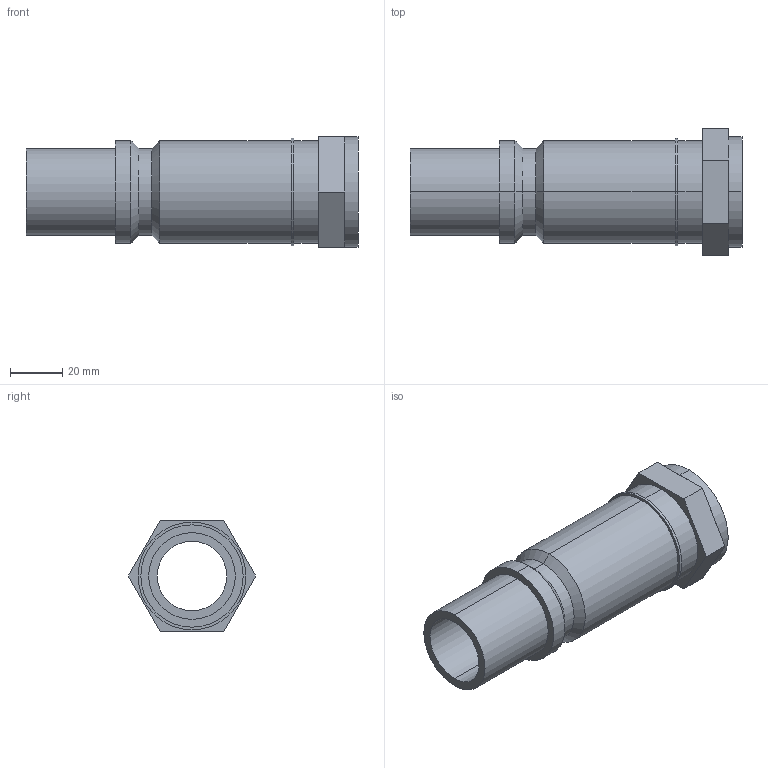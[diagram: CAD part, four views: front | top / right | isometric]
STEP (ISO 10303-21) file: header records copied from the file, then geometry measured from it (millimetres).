
FILE_DESCRIPTION (( 'STEP AP214' ), '1' );
FILE_NAME ('BR601.20 DRB 26.STEP', '2020-12-02T13:30:42', ( '' ), ( '' ), 'SwSTEP 2.0', 'SolidWorks 2018', '' );
FILE_SCHEMA (( 'AUTOMOTIVE_DESIGN' ));
Length unit declared in the file: millimetre
Products named in the file (1): BR601.20 DRB 26
Bounding box: 126.5 x 48.5 x 42 mm (x, y, z)
Volume: 72002.9 mm3; surface area: 27975.1 mm2
Topology: 1 solids, 1 shells, 38 faces, 80 edges, 48 vertices
Faces by surface type: plane 18, cylinder 16, cone 4
Entity records: 1050 total; most frequent: DIRECTION 194, CARTESIAN_POINT 167, ORIENTED_EDGE 160, EDGE_CURVE 80, AXIS2_PLACEMENT_3D 75, VERTEX_POINT 48, VECTOR 44, LINE 44
